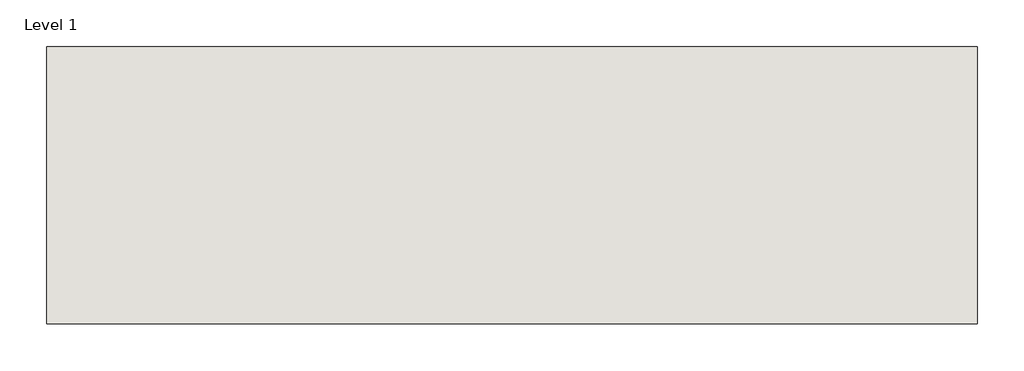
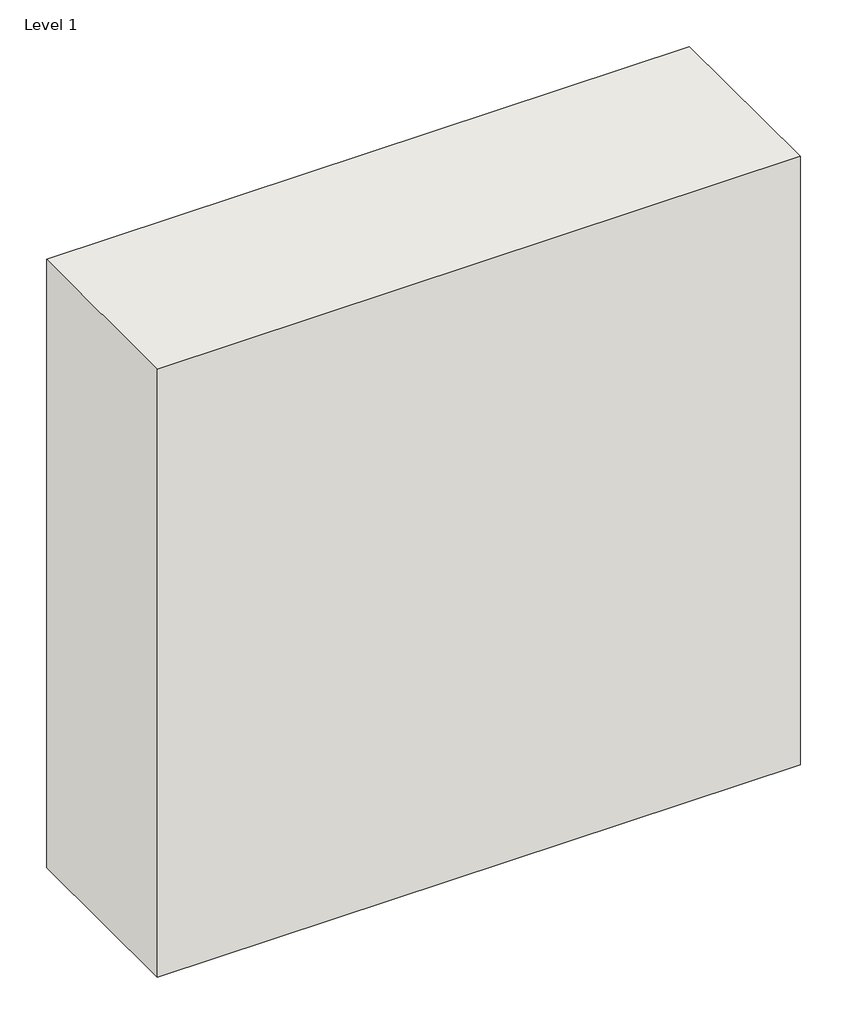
# One storey: 1 wall.
"""IFC4 building model written with IfcOpenShell, lengths in millimetres."""

from ifc_helpers import new_model, si_unit, origin, origin_with_axes, place, context, project, spatial, polyline, outline, extrude, element, save

model = new_model("IFC4")

# Units and contexts
model_context = context("Model", 3, world=origin())
ifc_project = project(units=[si_unit("LENGTHUNIT", "METRE", prefix="MILLI")], contexts=[model_context])

# Site, building, storey
site = spatial("IfcSite", under=ifc_project)
building = spatial("IfcBuilding", under=site)
storey = spatial("IfcBuildingStorey", under=building, Name="Level 1", Elevation=0.0)

# Wall
placement = place(None, origin())
element("IfcWall", 1, ObjectType="GYPTEC-REVESTIMENTO 73 BA13A + PRECERAM-PRO20", at=placement, inside=storey, context=model_context, shape_type="SweptSolid", body=[
    extrude(outline(polyline([(1000.0, -239.3485756), (0.0, -239.3485756), (0.0, 58.6514244), (1000.0, 58.6514244), (1000.0, -239.3485756)])), origin_with_axes(), (0.0, 0.0, 1.0), 1000.0),
])

save(model, "model.ifc")
